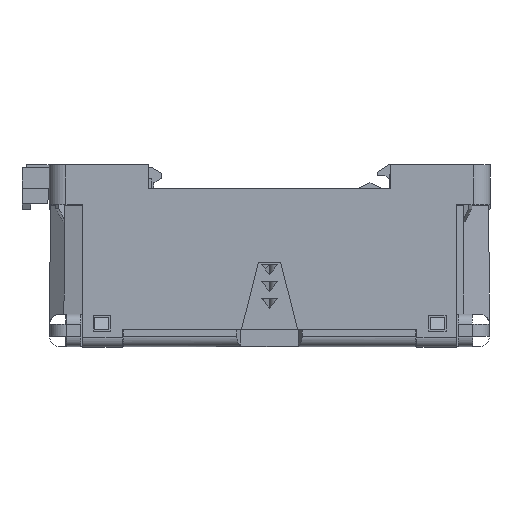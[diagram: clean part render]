
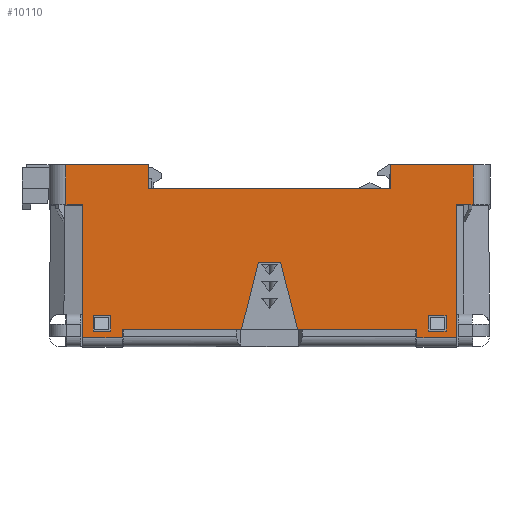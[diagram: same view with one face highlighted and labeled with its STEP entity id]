
A CAD part, left-side view. The second image highlights one B-rep face of the part: STEP entity #10110.
In plain terms, the highlighted planar face has unit normal (-1, 0, 0).
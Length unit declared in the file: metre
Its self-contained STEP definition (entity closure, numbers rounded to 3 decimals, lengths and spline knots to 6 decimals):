
#1777=CARTESIAN_POINT('',(-0.019,-0.0218,-0.0197));
#1778=VERTEX_POINT('',#1777);
#1781=CARTESIAN_POINT('',(-0.019,-0.0218,-0.0185));
#1782=DIRECTION('',(0.,0.,-1.));
#1783=VECTOR('',#1782,1.);
#1784=LINE('',#1781,#1783);
#1785=CARTESIAN_POINT('',(-0.019,-0.0218,-0.0185));
#1786=VERTEX_POINT('',#1785);
#1787=EDGE_CURVE('',#1786,#1778,#1784,.T.);
#1824=CARTESIAN_POINT('',(-0.019,-0.0276,-0.0197));
#1825=VERTEX_POINT('',#1824);
#1828=CARTESIAN_POINT('',(-0.019,-0.0326,-0.0197));
#1829=DIRECTION('',(0.,1.,0.));
#1830=VECTOR('',#1829,1.);
#1831=LINE('',#1828,#1830);
#1832=EDGE_CURVE('',#1825,#1778,#1831,.T.);
#1852=CARTESIAN_POINT('',(-0.019,-0.0276,-0.0211));
#1853=DIRECTION('',(0.,0.,1.));
#1854=VECTOR('',#1853,1.);
#1855=LINE('',#1852,#1854);
#1856=CARTESIAN_POINT('',(-0.019,-0.0276,0.));
#1857=VERTEX_POINT('',#1856);
#1858=EDGE_CURVE('',#1825,#1857,#1855,.T.);
#1955=CARTESIAN_POINT('',(-0.019,-0.0301,0.0059));
#1956=VERTEX_POINT('',#1955);
#1959=CARTESIAN_POINT('',(-0.019,-0.0301,0.0024));
#1960=DIRECTION('',(0.,0.,-1.));
#1961=VECTOR('',#1960,1.);
#1962=LINE('',#1959,#1961);
#1963=CARTESIAN_POINT('',(-0.019,-0.0301,0.));
#1964=VERTEX_POINT('',#1963);
#1965=EDGE_CURVE('',#1956,#1964,#1962,.T.);
#3863=CARTESIAN_POINT('',(-0.019,0.0301,0.0024));
#3864=DIRECTION('',(0.,0.,-1.));
#3865=VECTOR('',#3864,1.);
#3866=LINE('',#3863,#3865);
#3867=CARTESIAN_POINT('',(-0.019,0.0301,0.0059));
#3868=VERTEX_POINT('',#3867);
#3869=CARTESIAN_POINT('',(-0.019,0.0301,0.));
#3870=VERTEX_POINT('',#3869);
#3871=EDGE_CURVE('',#3868,#3870,#3866,.T.);
#5218=CARTESIAN_POINT('',(-0.019,0.0179,0.0024));
#5219=VERTEX_POINT('',#5218);
#5222=CARTESIAN_POINT('',(-0.019,-0.0326,0.0024));
#5223=DIRECTION('',(0.,1.,0.));
#5224=VECTOR('',#5223,1.);
#5225=LINE('',#5222,#5224);
#5226=CARTESIAN_POINT('',(-0.019,-0.0179,0.0024));
#5227=VERTEX_POINT('',#5226);
#5228=EDGE_CURVE('',#5227,#5219,#5225,.T.);
#5614=CARTESIAN_POINT('',(-0.019,-0.0179,0.0059));
#5615=DIRECTION('',(0.,0.,-1.));
#5616=VECTOR('',#5615,1.);
#5617=LINE('',#5614,#5616);
#5618=CARTESIAN_POINT('',(-0.019,-0.0179,0.0059));
#5619=VERTEX_POINT('',#5618);
#5620=EDGE_CURVE('',#5619,#5227,#5617,.T.);
#6137=CARTESIAN_POINT('',(-0.019,-0.0179,0.0059));
#6138=DIRECTION('',(0.,-1.,0.));
#6139=VECTOR('',#6138,1.);
#6140=LINE('',#6137,#6139);
#6141=EDGE_CURVE('',#5619,#1956,#6140,.T.);
#6886=CARTESIAN_POINT('',(-0.019,-0.0326,0.));
#6887=DIRECTION('',(0.,1.,0.));
#6888=VECTOR('',#6887,1.);
#6889=LINE('',#6886,#6888);
#6890=EDGE_CURVE('',#1964,#1857,#6889,.T.);
#8958=CARTESIAN_POINT('',(-0.019,0.0276,-0.0197));
#8959=VERTEX_POINT('',#8958);
#8962=CARTESIAN_POINT('',(-0.019,0.0276,-0.0211));
#8963=DIRECTION('',(0.,0.,1.));
#8964=VECTOR('',#8963,1.);
#8965=LINE('',#8962,#8964);
#8966=CARTESIAN_POINT('',(-0.019,0.0276,0.));
#8967=VERTEX_POINT('',#8966);
#8968=EDGE_CURVE('',#8959,#8967,#8965,.T.);
#9005=CARTESIAN_POINT('',(-0.019,0.0218,-0.0197));
#9006=VERTEX_POINT('',#9005);
#9009=CARTESIAN_POINT('',(-0.019,-0.0326,-0.0197));
#9010=DIRECTION('',(0.,1.,0.));
#9011=VECTOR('',#9010,1.);
#9012=LINE('',#9009,#9011);
#9013=EDGE_CURVE('',#9006,#8959,#9012,.T.);
#9028=CARTESIAN_POINT('',(-0.019,0.0218,-0.0211));
#9029=DIRECTION('',(0.,0.,1.));
#9030=VECTOR('',#9029,1.);
#9031=LINE('',#9028,#9030);
#9032=CARTESIAN_POINT('',(-0.019,0.0218,-0.0185));
#9033=VERTEX_POINT('',#9032);
#9034=EDGE_CURVE('',#9006,#9033,#9031,.T.);
#9067=CARTESIAN_POINT('',(-0.019,0.0261,-0.0187));
#9068=VERTEX_POINT('',#9067);
#9073=CARTESIAN_POINT('',(-0.019,0.0235,-0.0187));
#9074=DIRECTION('',(0.,1.,0.));
#9075=VECTOR('',#9074,1.);
#9076=LINE('',#9073,#9075);
#9077=CARTESIAN_POINT('',(-0.019,0.0235,-0.0187));
#9078=VERTEX_POINT('',#9077);
#9079=EDGE_CURVE('',#9078,#9068,#9076,.T.);
#9107=CARTESIAN_POINT('',(-0.019,0.0235,-0.0164));
#9108=DIRECTION('',(0.,0.,-1.));
#9109=VECTOR('',#9108,1.);
#9110=LINE('',#9107,#9109);
#9111=CARTESIAN_POINT('',(-0.019,0.0235,-0.0164));
#9112=VERTEX_POINT('',#9111);
#9113=EDGE_CURVE('',#9112,#9078,#9110,.T.);
#9141=CARTESIAN_POINT('',(-0.019,0.0261,-0.0164));
#9142=DIRECTION('',(0.,-1.,0.));
#9143=VECTOR('',#9142,1.);
#9144=LINE('',#9141,#9143);
#9145=CARTESIAN_POINT('',(-0.019,0.0261,-0.0164));
#9146=VERTEX_POINT('',#9145);
#9147=EDGE_CURVE('',#9146,#9112,#9144,.T.);
#9175=CARTESIAN_POINT('',(-0.019,0.0261,-0.0187));
#9176=DIRECTION('',(0.,0.,1.));
#9177=VECTOR('',#9176,1.);
#9178=LINE('',#9175,#9177);
#9179=EDGE_CURVE('',#9068,#9146,#9178,.T.);
#9438=CARTESIAN_POINT('',(-0.019,0.00415,-0.0185));
#9439=DIRECTION('',(0.,-0.243,0.97));
#9440=VECTOR('',#9439,1.);
#9441=LINE('',#9438,#9440);
#9442=CARTESIAN_POINT('',(-0.019,0.00415,-0.0185));
#9443=VERTEX_POINT('',#9442);
#9444=CARTESIAN_POINT('',(-0.019,0.00165,-0.0085));
#9445=VERTEX_POINT('',#9444);
#9446=EDGE_CURVE('',#9443,#9445,#9441,.T.);
#9486=CARTESIAN_POINT('',(-0.019,0.00165,-0.0085));
#9487=DIRECTION('',(0.,-1.,0.));
#9488=VECTOR('',#9487,1.);
#9489=LINE('',#9486,#9488);
#9490=CARTESIAN_POINT('',(-0.019,-0.00165,-0.0085));
#9491=VERTEX_POINT('',#9490);
#9492=EDGE_CURVE('',#9445,#9491,#9489,.T.);
#9525=CARTESIAN_POINT('',(-0.019,-0.00165,-0.0085));
#9526=DIRECTION('',(0.,-0.243,-0.97));
#9527=VECTOR('',#9526,1.);
#9528=LINE('',#9525,#9527);
#9529=CARTESIAN_POINT('',(-0.019,-0.00415,-0.0185));
#9530=VERTEX_POINT('',#9529);
#9531=EDGE_CURVE('',#9491,#9530,#9528,.T.);
#9861=CARTESIAN_POINT('',(-0.019,0.0218,-0.0185));
#9862=DIRECTION('',(0.,-1.,0.));
#9863=VECTOR('',#9862,1.);
#9864=LINE('',#9861,#9863);
#9865=EDGE_CURVE('',#9530,#1786,#9864,.T.);
#9870=EDGE_CURVE('',#9033,#9443,#9864,.T.);
#9954=CARTESIAN_POINT('',(-0.019,-0.0261,-0.0187));
#9955=VERTEX_POINT('',#9954);
#9958=CARTESIAN_POINT('',(-0.019,-0.0261,-0.0164));
#9959=DIRECTION('',(0.,0.,-1.));
#9960=VECTOR('',#9959,1.);
#9961=LINE('',#9958,#9960);
#9962=CARTESIAN_POINT('',(-0.019,-0.0261,-0.0164));
#9963=VERTEX_POINT('',#9962);
#9964=EDGE_CURVE('',#9963,#9955,#9961,.T.);
#9985=CARTESIAN_POINT('',(-0.019,-0.0235,-0.0164));
#9986=DIRECTION('',(0.,-1.,0.));
#9987=VECTOR('',#9986,1.);
#9988=LINE('',#9985,#9987);
#9989=CARTESIAN_POINT('',(-0.019,-0.0235,-0.0164));
#9990=VERTEX_POINT('',#9989);
#9991=EDGE_CURVE('',#9990,#9963,#9988,.T.);
#10012=CARTESIAN_POINT('',(-0.019,-0.0235,-0.0187));
#10013=DIRECTION('',(0.,0.,1.));
#10014=VECTOR('',#10013,1.);
#10015=LINE('',#10012,#10014);
#10016=CARTESIAN_POINT('',(-0.019,-0.0235,-0.0187));
#10017=VERTEX_POINT('',#10016);
#10018=EDGE_CURVE('',#10017,#9990,#10015,.T.);
#10039=CARTESIAN_POINT('',(-0.019,-0.0261,-0.0187));
#10040=DIRECTION('',(0.,1.,0.));
#10041=VECTOR('',#10040,1.);
#10042=LINE('',#10039,#10041);
#10043=EDGE_CURVE('',#9955,#10017,#10042,.T.);
#10058=CARTESIAN_POINT('',(-0.019,-0.0326,0.0024));
#10059=DIRECTION('',(-1.,0.,0.));
#10060=DIRECTION('',(0.,-1.,0.));
#10061=AXIS2_PLACEMENT_3D('',#10058,#10059,#10060);
#10062=PLANE('',#10061);
#10063=ORIENTED_EDGE('',*,*,#10043,.T.);
#10064=ORIENTED_EDGE('',*,*,#10018,.T.);
#10065=ORIENTED_EDGE('',*,*,#9991,.T.);
#10066=ORIENTED_EDGE('',*,*,#9964,.T.);
#10067=EDGE_LOOP('',(#10063,#10064,#10065,#10066));
#10068=FACE_BOUND('',#10067,.T.);
#10069=ORIENTED_EDGE('',*,*,#9079,.T.);
#10070=ORIENTED_EDGE('',*,*,#9179,.T.);
#10071=ORIENTED_EDGE('',*,*,#9147,.T.);
#10072=ORIENTED_EDGE('',*,*,#9113,.T.);
#10073=EDGE_LOOP('',(#10069,#10070,#10071,#10072));
#10074=FACE_BOUND('',#10073,.T.);
#10075=ORIENTED_EDGE('',*,*,#9492,.T.);
#10076=ORIENTED_EDGE('',*,*,#9531,.T.);
#10077=ORIENTED_EDGE('',*,*,#9865,.T.);
#10078=ORIENTED_EDGE('',*,*,#1787,.T.);
#10079=ORIENTED_EDGE('',*,*,#1832,.F.);
#10080=ORIENTED_EDGE('',*,*,#1858,.T.);
#10081=ORIENTED_EDGE('',*,*,#6890,.F.);
#10082=ORIENTED_EDGE('',*,*,#1965,.F.);
#10083=ORIENTED_EDGE('',*,*,#6141,.F.);
#10084=ORIENTED_EDGE('',*,*,#5620,.T.);
#10085=ORIENTED_EDGE('',*,*,#5228,.T.);
#10086=CARTESIAN_POINT('',(-0.019,0.0179,0.0059));
#10087=DIRECTION('',(0.,0.,-1.));
#10088=VECTOR('',#10087,1.);
#10089=LINE('',#10086,#10088);
#10090=CARTESIAN_POINT('',(-0.019,0.0179,0.0059));
#10091=VERTEX_POINT('',#10090);
#10092=EDGE_CURVE('',#10091,#5219,#10089,.T.);
#10093=ORIENTED_EDGE('',*,*,#10092,.F.);
#10094=CARTESIAN_POINT('',(-0.019,0.0301,0.0059));
#10095=DIRECTION('',(0.,-1.,0.));
#10096=VECTOR('',#10095,1.);
#10097=LINE('',#10094,#10096);
#10098=EDGE_CURVE('',#3868,#10091,#10097,.T.);
#10099=ORIENTED_EDGE('',*,*,#10098,.F.);
#10100=ORIENTED_EDGE('',*,*,#3871,.T.);
#10101=EDGE_CURVE('',#8967,#3870,#6889,.T.);
#10102=ORIENTED_EDGE('',*,*,#10101,.F.);
#10103=ORIENTED_EDGE('',*,*,#8968,.F.);
#10104=ORIENTED_EDGE('',*,*,#9013,.F.);
#10105=ORIENTED_EDGE('',*,*,#9034,.T.);
#10106=ORIENTED_EDGE('',*,*,#9870,.T.);
#10107=ORIENTED_EDGE('',*,*,#9446,.T.);
#10108=EDGE_LOOP('',(#10075,#10076,#10077,#10078,#10079,#10080,#10081,#10082,#10083,#10084,#10085,#10093,#10099,#10100,#10102,#10103,#10104,#10105,#10106,#10107));
#10109=FACE_BOUND('',#10108,.T.);
#10110=ADVANCED_FACE('',(#10068,#10074,#10109),#10062,.T.);
